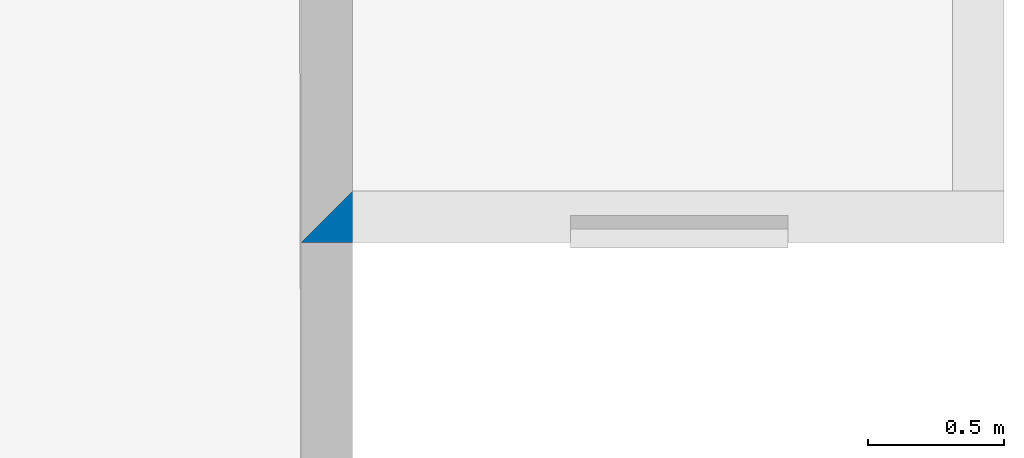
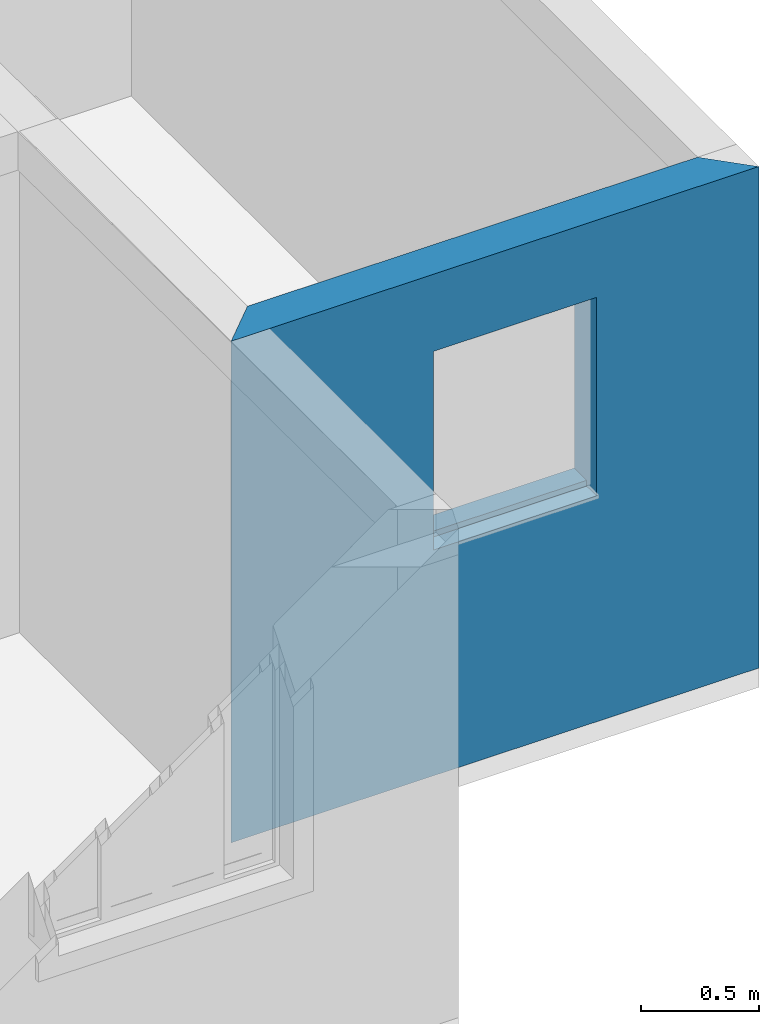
# One storey, part 15 of 43: 1 wall, 1 opening.
"""IFC2X3 building model written with IfcOpenShell, lengths in millimetres."""

import ifcopenshell
import ifcopenshell.guid

model = None  # the IFC model being written
_history = None  # IfcOwnerHistory: only IFC2X3 demands one
_inside = {}  # id of a spatial element -> (the spatial element, [elements in it])
_under = {}  # id of a project, library or spatial element -> (it, [spatial elements below it])
_declared = {}  # id of a project -> (the project, [libraries it declares])
_typed = {}  # id of a type object -> (the type object, [elements of that type])
_made_of = {}  # id of a material, layer set ... -> (it, [elements and type objects made of it])


def new_model(schema):
    """Start an empty IFC model of exactly this schema.

    Asked for "IFC4X3", IfcOpenShell would pick the latest addendum, in which some entities
    have other attributes; the version numbers below select the first issue.
    IFC2X3 requires an IfcOwnerHistory on every rooted entity: one is made here for all.
    """
    global model, _history
    if schema == "IFC4X3":
        model = ifcopenshell.file(schema_version=(4, 3, 0, 0))
    else:
        model = ifcopenshell.file(schema=schema)
    _inside.clear()
    _under.clear()
    _declared.clear()
    _typed.clear()
    _made_of.clear()
    _history = None
    if model.schema == "IFC2X3":
        org = make("IfcOrganization", Name="unknown")
        user = make(
            "IfcPersonAndOrganization",
            ThePerson=make("IfcPerson", FamilyName="unknown"),
            TheOrganization=org,
        )
        app = make(
            "IfcApplication",
            ApplicationDeveloper=org,
            Version="unknown",
            ApplicationFullName="unknown",
            ApplicationIdentifier="unknown",
        )
        _history = make(
            "IfcOwnerHistory",
            OwningUser=user,
            OwningApplication=app,
            ChangeAction="ADDED",
            CreationDate=0,
        )
    return model


def make(cls, **values):
    """One entity of the class cls with the attributes given. An attribute that is None is left unset."""
    return model.create_entity(
        cls, **{name: value for name, value in values.items() if value is not None}
    )


def entity(cls, *values):
    """Any entity or typed value of the class cls, its attributes in the order of the schema. None: left unset."""
    e = model.create_entity(cls)
    for i, value in enumerate(values):
        if value is not None:
            e[i] = value
    return e


def rooted(cls, **values):
    """An entity with a GlobalId (a new one), such as an element, a storey or a relation."""
    return make(cls, GlobalId=ifcopenshell.guid.new(), OwnerHistory=_history, **values)


def si_unit(unit_type, name, prefix=None):
    """IfcSIUnit, for example si_unit("LENGTHUNIT", "METRE", prefix="MILLI")."""
    return make("IfcSIUnit", UnitType=unit_type, Prefix=prefix, Name=name)


def converted_unit(unit_type, name, factor, base, dimensions=None, offset=None):
    """IfcConversionBasedUnit, such as the inch: factor (a typed value) times the base unit."""
    return make(
        "IfcConversionBasedUnit"
        if offset is None
        else "IfcConversionBasedUnitWithOffset",
        ConversionOffset=offset,
        Dimensions=None
        if dimensions is None
        else entity("IfcDimensionalExponents", *dimensions),
        UnitType=unit_type,
        Name=name,
        ConversionFactor=make(
            "IfcMeasureWithUnit", ValueComponent=factor, UnitComponent=base
        ),
    )


def derived_unit(unit_type, elements):
    """IfcDerivedUnit: a product of units, each with its exponent."""
    return make(
        "IfcDerivedUnit",
        Elements=[
            make("IfcDerivedUnitElement", Unit=unit, Exponent=power)
            for unit, power in elements
        ],
        UnitType=unit_type,
    )


def money_unit(currency):
    """IfcMonetaryUnit."""
    return make("IfcMonetaryUnit", Currency=currency)


def assignment(units):
    """IfcUnitAssignment: the units of a project."""
    return None if units is None else make("IfcUnitAssignment", Units=units)


def point(xyz):
    """IfcCartesianPoint."""
    return None if xyz is None else make("IfcCartesianPoint", Coordinates=xyz)


def direction(xyz):
    """IfcDirection."""
    return None if xyz is None else make("IfcDirection", DirectionRatios=xyz)


def frame(location, z_axis=None, x_axis=None):
    """IfcAxis2Placement3D, a coordinate frame: its origin and axes. An axis left out is left unset."""
    return make(
        "IfcAxis2Placement3D",
        Location=point(location),
        Axis=direction(z_axis),
        RefDirection=direction(x_axis),
    )


def frame_2d(location, x_axis=None):
    """IfcAxis2Placement2D, a coordinate frame in the plane: its origin and x axis."""
    return make(
        "IfcAxis2Placement2D", Location=point(location), RefDirection=direction(x_axis)
    )


def origin_with_axes():
    """The frame at (0, 0, 0) with the z axis (0, 0, 1) and the x axis (1, 0, 0) written out."""
    return frame((0.0, 0.0, 0.0), z_axis=(0.0, 0.0, 1.0), x_axis=(1.0, 0.0, 0.0))


def origin_2d_with_axis():
    """The frame at (0, 0) in the plane with the x axis (1, 0) written out."""
    return frame_2d((0.0, 0.0), x_axis=(1.0, 0.0))


def place(relative_to, where):
    """IfcLocalPlacement: puts the frame where relative to a parent placement (None: the world)."""
    return make(
        "IfcLocalPlacement", PlacementRelTo=relative_to, RelativePlacement=where
    )


def context(
    kind, dimensions, precision=None, world=None, true_north=None, identifier=None
):
    """IfcGeometricRepresentationContext, for example the 3D "Model" context."""
    return make(
        "IfcGeometricRepresentationContext",
        ContextIdentifier=identifier,
        ContextType=kind,
        CoordinateSpaceDimension=dimensions,
        Precision=precision,
        WorldCoordinateSystem=world,
        TrueNorth=true_north,
    )


def subcontext(parent, identifier, kind, view, scale=None):
    """IfcGeometricRepresentationSubContext, for example "Body" below "Model"."""
    return make(
        "IfcGeometricRepresentationSubContext",
        ContextIdentifier=identifier,
        ContextType=kind,
        ParentContext=parent,
        TargetScale=scale,
        TargetView=view,
    )


def project(units=None, contexts=None):
    """IfcProject with its units and contexts."""
    return rooted(
        "IfcProject",
        Name="project",
        RepresentationContexts=contexts,
        UnitsInContext=assignment(units),
    )


def spatial(cls, under=None, at=None, **own):
    """A site, building, storey or space (cls), placed at a placement, below another one or the project."""
    s = rooted(cls, ObjectPlacement=at, **own)
    if under is not None:
        _under.setdefault(under.id(), (under, []))[1].append(s)
    return s


def polyline(points):
    """IfcPolyline through the points."""
    return make("IfcPolyline", Points=[point(p) for p in points])


def profile(cls, at=None, kind="AREA", **sizes):
    """A parametric profile (cls). Its sizes go by their IFC names, for example OverallWidth=200.0."""
    return make(cls, ProfileType=kind, Position=at, **sizes)


def rectangle(**sizes):
    """IfcRectangleProfileDef."""
    return profile("IfcRectangleProfileDef", **sizes)


def outline(outer, holes=None, kind="AREA"):
    """IfcArbitraryClosedProfileDef: a profile drawn as a closed curve; with holes, ...WithVoids."""
    if holes is None:
        return make("IfcArbitraryClosedProfileDef", ProfileType=kind, OuterCurve=outer)
    return make(
        "IfcArbitraryProfileDefWithVoids",
        ProfileType=kind,
        OuterCurve=outer,
        InnerCurves=holes,
    )


def extrude(swept, where, along, depth):
    """IfcExtrudedAreaSolid: the profile swept, set in the frame where, extruded along a direction by depth."""
    return make(
        "IfcExtrudedAreaSolid",
        SweptArea=swept,
        Position=where,
        ExtrudedDirection=direction(along),
        Depth=depth,
    )


def shape(context_of_items, identifier, shape_type, items):
    """IfcShapeRepresentation: the items that make up one representation, for example the "Body"."""
    return make(
        "IfcShapeRepresentation",
        ContextOfItems=context_of_items,
        RepresentationIdentifier=identifier,
        RepresentationType=shape_type,
        Items=items,
    )


def material(Name=None, Category=None):
    """IfcMaterial."""
    return make("IfcMaterial", Name=Name, Category=Category)


def layer(
    of_material, thickness, ventilated=None, Name=None, Category=None, Priority=None
):
    """IfcMaterialLayer: one layer of a wall or slab, of a material (None: an air gap)."""
    return make(
        "IfcMaterialLayer",
        Material=of_material,
        LayerThickness=thickness,
        IsVentilated=ventilated,
        Name=Name,
        Category=Category,
        Priority=Priority,
    )


def layer_set(layers, Name=None):
    """IfcMaterialLayerSet."""
    return make("IfcMaterialLayerSet", MaterialLayers=layers, LayerSetName=Name)


def layer_usage(for_layer_set, set_direction, sense, offset, extent=None):
    """IfcMaterialLayerSetUsage: how a layer set lies in its element."""
    return make(
        "IfcMaterialLayerSetUsage",
        ForLayerSet=for_layer_set,
        LayerSetDirection=set_direction,
        DirectionSense=sense,
        OffsetFromReferenceLine=offset,
        ReferenceExtent=extent,
    )


def made_of(thing, what):
    """Note that an element or type object is made of a material, layer set ...; save() writes the relation."""
    if what is not None:
        _made_of.setdefault(what.id(), (what, []))[1].append(thing)
    return thing


def type_object(cls, material=None, **own):
    """A type object (cls), such as IfcWallType, which elements share."""
    return made_of(rooted(cls, **own), material)


def element(
    cls,
    number,
    at=None,
    inside=None,
    cuts=None,
    type_object=None,
    material=None,
    context=None,
    identifier="Body",
    shape_type=None,
    held_by="IfcProductDefinitionShape",
    body=None,
    shapes=None,
    **own,
):
    """One element of the class cls, such as IfcWall. Its Tag is "e" and its number.

    at: its placement. inside: the storey or other place that contains it. cuts: it is an
    opening in that element (IfcRelVoidsElement). A single representation is given by context,
    identifier, shape_type and body (its items); several are given by shapes. held_by: the class
    of the entity that holds the representations. save() writes the other relations.
    """
    e = rooted(cls, Tag="e%d" % number, ObjectPlacement=at, **own)
    if body is not None:
        shapes = [shape(context, identifier, shape_type, body)]
    if shapes is not None:
        e.Representation = make(held_by, Representations=shapes)
    if inside is not None:
        _inside.setdefault(inside.id(), (inside, []))[1].append(e)
    if cuts is not None:
        rooted(
            "IfcRelVoidsElement", RelatingBuildingElement=cuts, RelatedOpeningElement=e
        )
    if type_object is not None:
        _typed.setdefault(type_object.id(), (type_object, []))[1].append(e)
    return made_of(e, material)


def aggregate(whole, parts):
    """IfcRelAggregates: a whole, such as a stair, and the parts it consists of."""
    return rooted("IfcRelAggregates", RelatingObject=whole, RelatedObjects=parts)


def save(model, path):
    """Write the relations noted so far, then the file.

    IfcRelAggregates (storeys below a building ...), IfcRelContainedInSpatialStructure (elements
    in a storey), IfcRelDefinesByType, IfcRelAssociatesMaterial and IfcRelDeclares: one each for
    every whole, place, type object, material and project.
    """
    for whole, parts in _under.values():
        aggregate(whole, parts)
    for where, things in _inside.values():
        rooted(
            "IfcRelContainedInSpatialStructure",
            RelatedElements=things,
            RelatingStructure=where,
        )
    for kind, things in _typed.values():
        rooted("IfcRelDefinesByType", RelatedObjects=things, RelatingType=kind)
    for what, things in _made_of.values():
        rooted("IfcRelAssociatesMaterial", RelatedObjects=things, RelatingMaterial=what)
    for by, libraries in _declared.values():
        rooted("IfcRelDeclares", RelatingContext=by, RelatedDefinitions=libraries)
    model.write(path)


model = new_model("IFC2X3")

# Units and contexts
model_context = context("Model", 3, precision=0.01, world=origin_with_axes(), true_north=direction((0.0, 1.0)))
body_context = subcontext(model_context, "Body", "Model", "MODEL_VIEW")
ifc_project = project(units=[si_unit("LENGTHUNIT", "METRE", prefix="MILLI"), si_unit("AREAUNIT", "SQUARE_METRE"), si_unit("VOLUMEUNIT", "CUBIC_METRE"), converted_unit("PLANEANGLEUNIT", "DEGREE", entity("IfcPlaneAngleMeasure", 0.0174532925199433), si_unit("PLANEANGLEUNIT", "RADIAN"), dimensions=[0, 0, 0, 0, 0, 0, 0]), money_unit("USD"), converted_unit("TIMEUNIT", "Year", entity("IfcTimeMeasure", 31557600.0), si_unit("TIMEUNIT", "SECOND"), dimensions=[0, 0, 1, 0, 0, 0, 0]), si_unit("MASSUNIT", "GRAM", prefix="KILO"), si_unit("THERMODYNAMICTEMPERATUREUNIT", "DEGREE_CELSIUS"), si_unit("LUMINOUSINTENSITYUNIT", "LUMEN"), si_unit("ENERGYUNIT", "JOULE", prefix="MEGA"), derived_unit("THERMALCONDUCTANCEUNIT", [(si_unit("POWERUNIT", "WATT"), 1), (si_unit("LENGTHUNIT", "METRE"), -1), (si_unit("THERMODYNAMICTEMPERATUREUNIT", "KELVIN"), -1)]), derived_unit("SPECIFICHEATCAPACITYUNIT", [(si_unit("ENERGYUNIT", "JOULE"), 1), (si_unit("MASSUNIT", "GRAM", prefix="KILO"), -1), (si_unit("THERMODYNAMICTEMPERATUREUNIT", "KELVIN"), -1)]), derived_unit("MASSDENSITYUNIT", [(si_unit("MASSUNIT", "GRAM", prefix="KILO"), 1), (si_unit("VOLUMEUNIT", "CUBIC_METRE"), -1)])], contexts=[model_context])

# Site, building, storey
site_placement = place(None, origin_with_axes())
site = spatial("IfcSite", under=ifc_project, at=site_placement, Name="Local", CompositionType="ELEMENT")
building_placement = place(site_placement, origin_with_axes())
building = spatial("IfcBuilding", under=site, at=building_placement, Name="Construção", CompositionType="ELEMENT")
storey_placement = place(building_placement, origin_with_axes())
storey = spatial("IfcBuildingStorey", under=building, at=storey_placement, Name="Pavimento Tipo", CompositionType="ELEMENT", Elevation=0.0)

# Wall, opening
ifc_material = material(Name="Concreto - Estrutural")
ifc_layer = layer(ifc_material, 190.0, ventilated="UNKNOWN")
ifc_layer_set = layer_set([ifc_layer], Name="Concreto - Estrutural 190")
ifc_layer_usage = layer_usage(ifc_layer_set, "AXIS2", "POSITIVE", 0.0)
wall_type = type_object("IfcWallType", Name="Concreto - Estrutural 190", PredefinedType="NOTDEFINED")
wall_placement = place(storey_placement, frame((70079.50726421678, -6757.580486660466, 0.0), z_axis=(0.0, 0.0, 1.0), x_axis=(0.9999999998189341, 1.902976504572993e-05, 0.0)))
wall = element("IfcWallStandardCase", 1, at=wall_placement, inside=storey, type_object=wall_type, material=ifc_layer_usage, Name="Apartamento 4 - Parede-003", context=body_context, shape_type="SweptSolid", body=[
    extrude(outline(polyline([(-189.9999999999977, 0.0), (2397.457601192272, 0.0), (2207.461216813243, 190.0000000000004), (0.0, 190.0000000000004), (-189.9999999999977, 0.0)])), origin_with_axes(), (0.0, 0.0, 1.0), 2600.0),
])
opening_placement = place(wall_placement, frame((1202.457601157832, 0.0, 1200.0), z_axis=(0.0, 0.0, 1.0), x_axis=(1.0, 0.0, 0.0)))
element("IfcOpeningElement", 2, at=opening_placement, cuts=wall, Name="Apartamento 4 - J04", context=body_context, shape_type="SweptSolid", body=[
    extrude(rectangle(XDim=800.0000000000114, YDim=1000.0, at=origin_2d_with_axis()), frame((0.0, 50.00000000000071, 500.0), z_axis=(0.0, 1.0, 0.0), x_axis=(1.0, 0.0, 0.0)), (0.0, 0.0, 1.0), 330.0),
    extrude(rectangle(XDim=800.0000000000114, YDim=1000.0, at=origin_2d_with_axis()), frame((0.0, 50.00000000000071, 500.0), z_axis=(0.0, -1.0, 0.0), x_axis=(1.0, 0.0, 0.0)), (0.0, 0.0, 1.0), 240.0),
    extrude(rectangle(XDim=799.9999999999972, YDim=30.00000000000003, at=origin_2d_with_axis()), frame((0.0, 85.00000000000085, -15.00000000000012), z_axis=(0.0, -1.0, 0.0), x_axis=(1.0, 0.0, 0.0)), (0.0, 0.0, 1.0), 225.0),
])

save(model, "model.ifc")
